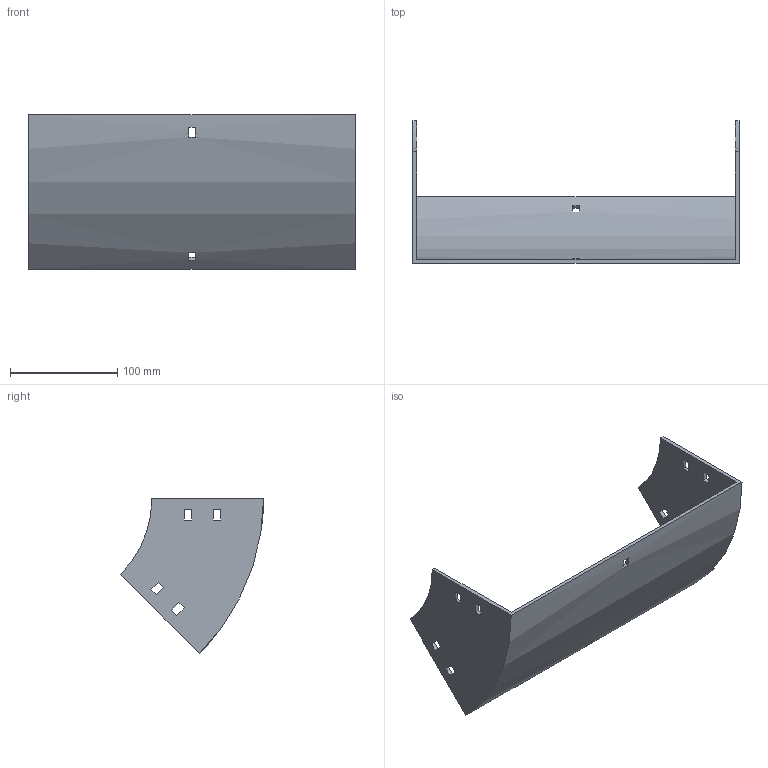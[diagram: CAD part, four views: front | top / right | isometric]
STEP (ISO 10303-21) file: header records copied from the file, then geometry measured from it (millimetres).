
FILE_DESCRIPTION (( 'STEP AP214' ), '1' );
FILE_NAME ('31B1D300.step', '2025-02-21T09:45:43', ( '' ), ( '' ), 'SwSTEP 2.0', 'SolidWorks 2023', '' );
FILE_SCHEMA (( 'AUTOMOTIVE_DESIGN' ));
Length unit declared in the file: millimetre
Products named in the file (1): 31B1D300
Bounding box: 304 x 133.29 x 144.25 mm (x, y, z)
Volume: 249659.3 mm3; surface area: 147926.6 mm2
Topology: 1 solids, 1 shells, 50 faces, 144 edges, 96 vertices
Faces by surface type: plane 46, cylinder 4
Entity records: 1687 total; most frequent: CARTESIAN_POINT 291, ORIENTED_EDGE 288, DIRECTION 262, EDGE_CURVE 144, VECTOR 128, LINE 128, VERTEX_POINT 96, EDGE_LOOP 70
